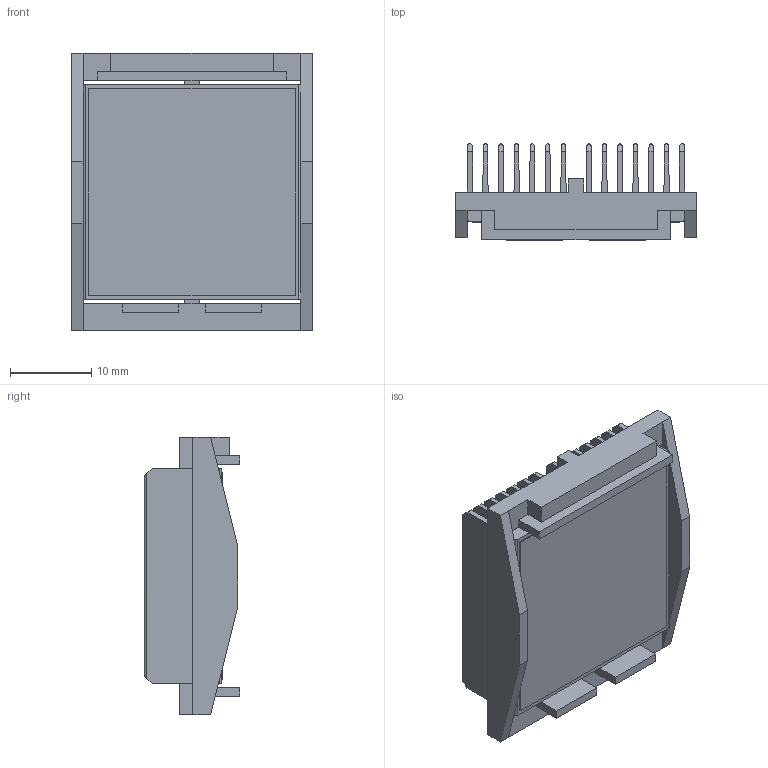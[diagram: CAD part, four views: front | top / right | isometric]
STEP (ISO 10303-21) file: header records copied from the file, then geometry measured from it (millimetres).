
FILE_DESCRIPTION (( 'STEP AP214' ), '1' );
FILE_NAME ('INL27001-10-1.7Y.STEP', '2023-02-21T21:34:37', ( '' ), ( '' ), 'SwSTEP 2.0', 'SolidWorks 2020', '' );
FILE_SCHEMA (( 'AUTOMOTIVE_DESIGN' ));
Length unit declared in the file: millimetre
Products named in the file (1): INL27001-10-1.7Y
Bounding box: 29.6 x 11.8 x 34.1 mm (x, y, z)
Volume: 4235.6 mm3; surface area: 10464.4 mm2
Topology: 3 solids, 3 shells, 168 faces, 488 edges, 324 vertices
Faces by surface type: plane 126, cylinder 42
Entity records: 7380 total; most frequent: CARTESIAN_POINT 1065, ORIENTED_EDGE 976, DIRECTION 854, EDGE_CURVE 488, VECTOR 404, LINE 404, VERTEX_POINT 324, AXIS2_PLACEMENT_3D 225
